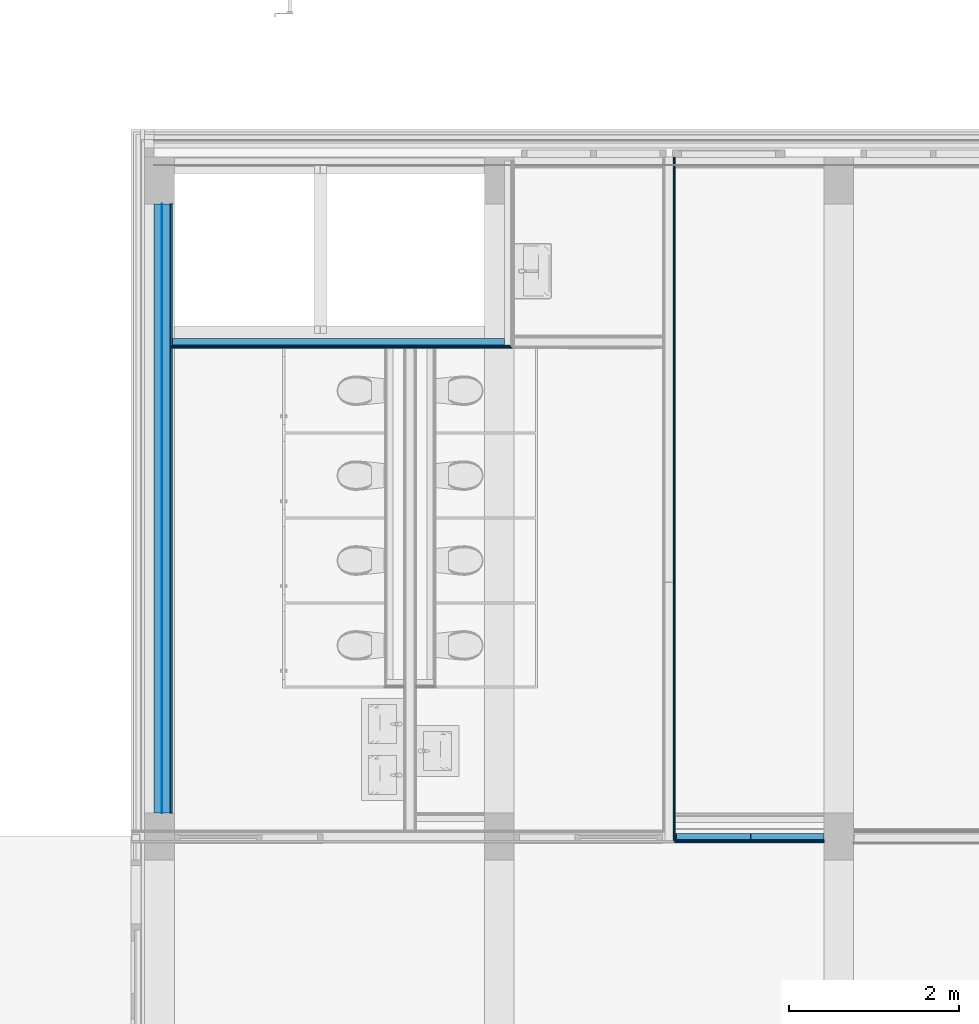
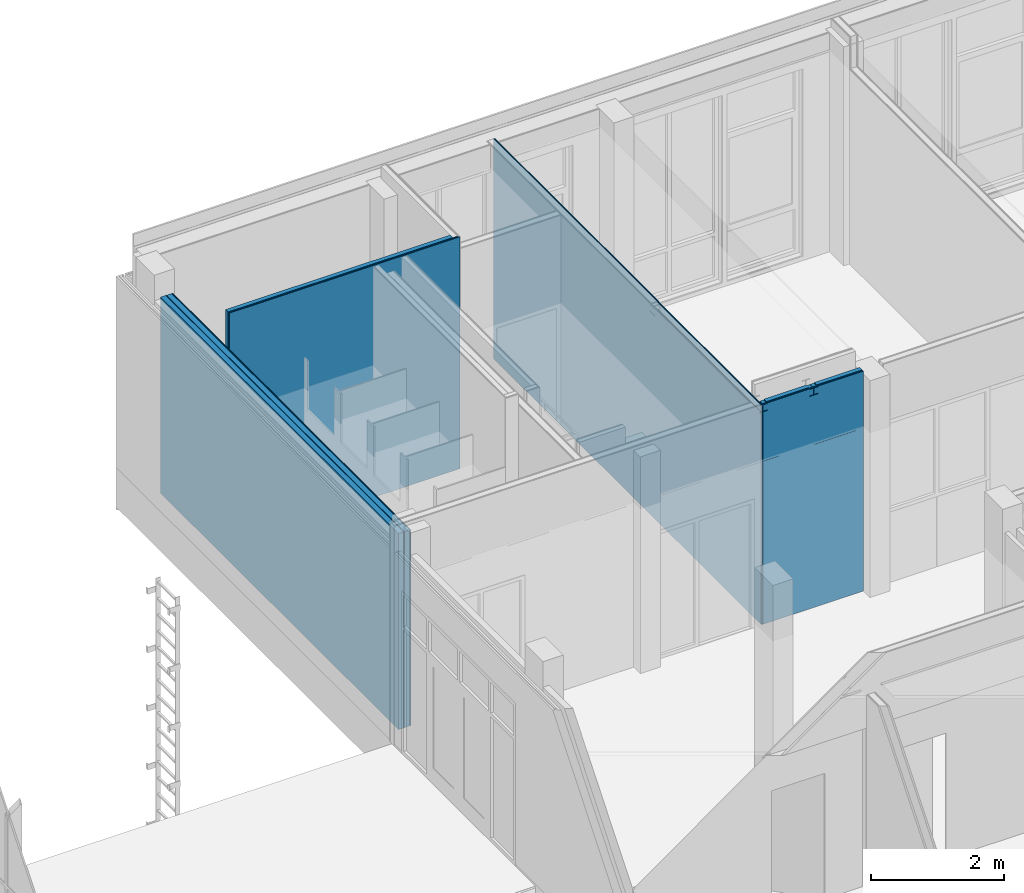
# One storey, part 23 of 54: 15 building element parts, 4 elements without a shape of their own.
"""IFC2X3 building model written with IfcOpenShell, lengths in millimetres."""

import ifcopenshell
import ifcopenshell.guid

model = None  # the IFC model being written
_history = None  # IfcOwnerHistory: only IFC2X3 demands one
_inside = {}  # id of a spatial element -> (the spatial element, [elements in it])
_under = {}  # id of a project, library or spatial element -> (it, [spatial elements below it])
_declared = {}  # id of a project -> (the project, [libraries it declares])
_typed = {}  # id of a type object -> (the type object, [elements of that type])
_made_of = {}  # id of a material, layer set ... -> (it, [elements and type objects made of it])


def new_model(schema):
    """Start an empty IFC model of exactly this schema.

    Asked for "IFC4X3", IfcOpenShell would pick the latest addendum, in which some entities
    have other attributes; the version numbers below select the first issue.
    IFC2X3 requires an IfcOwnerHistory on every rooted entity: one is made here for all.
    """
    global model, _history
    if schema == "IFC4X3":
        model = ifcopenshell.file(schema_version=(4, 3, 0, 0))
    else:
        model = ifcopenshell.file(schema=schema)
    _inside.clear()
    _under.clear()
    _declared.clear()
    _typed.clear()
    _made_of.clear()
    _history = None
    if model.schema == "IFC2X3":
        org = make("IfcOrganization", Name="unknown")
        user = make(
            "IfcPersonAndOrganization",
            ThePerson=make("IfcPerson", FamilyName="unknown"),
            TheOrganization=org,
        )
        app = make(
            "IfcApplication",
            ApplicationDeveloper=org,
            Version="unknown",
            ApplicationFullName="unknown",
            ApplicationIdentifier="unknown",
        )
        _history = make(
            "IfcOwnerHistory",
            OwningUser=user,
            OwningApplication=app,
            ChangeAction="ADDED",
            CreationDate=0,
        )
    return model


def make(cls, **values):
    """One entity of the class cls with the attributes given. An attribute that is None is left unset."""
    return model.create_entity(
        cls, **{name: value for name, value in values.items() if value is not None}
    )


def entity(cls, *values):
    """Any entity or typed value of the class cls, its attributes in the order of the schema. None: left unset."""
    e = model.create_entity(cls)
    for i, value in enumerate(values):
        if value is not None:
            e[i] = value
    return e


def rooted(cls, **values):
    """An entity with a GlobalId (a new one), such as an element, a storey or a relation."""
    return make(cls, GlobalId=ifcopenshell.guid.new(), OwnerHistory=_history, **values)


def si_unit(unit_type, name, prefix=None):
    """IfcSIUnit, for example si_unit("LENGTHUNIT", "METRE", prefix="MILLI")."""
    return make("IfcSIUnit", UnitType=unit_type, Prefix=prefix, Name=name)


def converted_unit(unit_type, name, factor, base, dimensions=None, offset=None):
    """IfcConversionBasedUnit, such as the inch: factor (a typed value) times the base unit."""
    return make(
        "IfcConversionBasedUnit"
        if offset is None
        else "IfcConversionBasedUnitWithOffset",
        ConversionOffset=offset,
        Dimensions=None
        if dimensions is None
        else entity("IfcDimensionalExponents", *dimensions),
        UnitType=unit_type,
        Name=name,
        ConversionFactor=make(
            "IfcMeasureWithUnit", ValueComponent=factor, UnitComponent=base
        ),
    )


def derived_unit(unit_type, elements):
    """IfcDerivedUnit: a product of units, each with its exponent."""
    return make(
        "IfcDerivedUnit",
        Elements=[
            make("IfcDerivedUnitElement", Unit=unit, Exponent=power)
            for unit, power in elements
        ],
        UnitType=unit_type,
    )


def money_unit(currency):
    """IfcMonetaryUnit."""
    return make("IfcMonetaryUnit", Currency=currency)


def assignment(units):
    """IfcUnitAssignment: the units of a project."""
    return None if units is None else make("IfcUnitAssignment", Units=units)


def point(xyz):
    """IfcCartesianPoint."""
    return None if xyz is None else make("IfcCartesianPoint", Coordinates=xyz)


def direction(xyz):
    """IfcDirection."""
    return None if xyz is None else make("IfcDirection", DirectionRatios=xyz)


def frame(location, z_axis=None, x_axis=None):
    """IfcAxis2Placement3D, a coordinate frame: its origin and axes. An axis left out is left unset."""
    return make(
        "IfcAxis2Placement3D",
        Location=point(location),
        Axis=direction(z_axis),
        RefDirection=direction(x_axis),
    )


def origin_with_axes():
    """The frame at (0, 0, 0) with the z axis (0, 0, 1) and the x axis (1, 0, 0) written out."""
    return frame((0.0, 0.0, 0.0), z_axis=(0.0, 0.0, 1.0), x_axis=(1.0, 0.0, 0.0))


def place(relative_to, where):
    """IfcLocalPlacement: puts the frame where relative to a parent placement (None: the world)."""
    return make(
        "IfcLocalPlacement", PlacementRelTo=relative_to, RelativePlacement=where
    )


def context(
    kind, dimensions, precision=None, world=None, true_north=None, identifier=None
):
    """IfcGeometricRepresentationContext, for example the 3D "Model" context."""
    return make(
        "IfcGeometricRepresentationContext",
        ContextIdentifier=identifier,
        ContextType=kind,
        CoordinateSpaceDimension=dimensions,
        Precision=precision,
        WorldCoordinateSystem=world,
        TrueNorth=true_north,
    )


def subcontext(parent, identifier, kind, view, scale=None):
    """IfcGeometricRepresentationSubContext, for example "Body" below "Model"."""
    return make(
        "IfcGeometricRepresentationSubContext",
        ContextIdentifier=identifier,
        ContextType=kind,
        ParentContext=parent,
        TargetScale=scale,
        TargetView=view,
    )


def project(units=None, contexts=None):
    """IfcProject with its units and contexts."""
    return rooted(
        "IfcProject",
        Name="project",
        RepresentationContexts=contexts,
        UnitsInContext=assignment(units),
    )


def spatial(cls, under=None, at=None, **own):
    """A site, building, storey or space (cls), placed at a placement, below another one or the project."""
    s = rooted(cls, ObjectPlacement=at, **own)
    if under is not None:
        _under.setdefault(under.id(), (under, []))[1].append(s)
    return s


def faces_of(points, faces, orient=None, outer=None):
    """IfcFace entities. A face is a list of loops; a loop is a list of indices into points, from 0.

    orient and outer hold one flag for each loop. By default every Orientation is true, the
    first loop of a face is its IfcFaceOuterBound and the others are IfcFaceBound.
    """
    made = []
    for i, loops in enumerate(faces):
        bounds = []
        for j, loop in enumerate(loops):
            is_outer = j == 0 if outer is None else outer[i][j]
            bounds.append(
                make(
                    "IfcFaceOuterBound" if is_outer else "IfcFaceBound",
                    Bound=make("IfcPolyLoop", Polygon=[points[k] for k in loop]),
                    Orientation=True if orient is None else orient[i][j],
                )
            )
        made.append(make("IfcFace", Bounds=bounds))
    return made


def faceted_brep(points, faces, orient=None, outer=None, voids=None):
    """IfcFacetedBrep: a solid bounded by flat faces; with voids (closed shells), ...WithVoids."""
    shared = [point(p) for p in points]
    hull = make("IfcClosedShell", CfsFaces=faces_of(shared, faces, orient, outer))
    if voids is None:
        return make("IfcFacetedBrep", Outer=hull)
    return make(
        "IfcFacetedBrepWithVoids",
        Outer=hull,
        Voids=[
            make(cls, CfsFaces=faces_of(shared, fs, o, b)) for cls, fs, o, b in voids
        ],
    )


def shape(context_of_items, identifier, shape_type, items):
    """IfcShapeRepresentation: the items that make up one representation, for example the "Body"."""
    return make(
        "IfcShapeRepresentation",
        ContextOfItems=context_of_items,
        RepresentationIdentifier=identifier,
        RepresentationType=shape_type,
        Items=items,
    )


def material(Name=None, Category=None):
    """IfcMaterial."""
    return make("IfcMaterial", Name=Name, Category=Category)


def made_of(thing, what):
    """Note that an element or type object is made of a material, layer set ...; save() writes the relation."""
    if what is not None:
        _made_of.setdefault(what.id(), (what, []))[1].append(thing)
    return thing


def type_object(cls, material=None, **own):
    """A type object (cls), such as IfcWallType, which elements share."""
    return made_of(rooted(cls, **own), material)


def element(
    cls,
    number,
    at=None,
    inside=None,
    cuts=None,
    type_object=None,
    material=None,
    context=None,
    identifier="Body",
    shape_type=None,
    held_by="IfcProductDefinitionShape",
    body=None,
    shapes=None,
    **own,
):
    """One element of the class cls, such as IfcWall. Its Tag is "e" and its number.

    at: its placement. inside: the storey or other place that contains it. cuts: it is an
    opening in that element (IfcRelVoidsElement). A single representation is given by context,
    identifier, shape_type and body (its items); several are given by shapes. held_by: the class
    of the entity that holds the representations. save() writes the other relations.
    """
    e = rooted(cls, Tag="e%d" % number, ObjectPlacement=at, **own)
    if body is not None:
        shapes = [shape(context, identifier, shape_type, body)]
    if shapes is not None:
        e.Representation = make(held_by, Representations=shapes)
    if inside is not None:
        _inside.setdefault(inside.id(), (inside, []))[1].append(e)
    if cuts is not None:
        rooted(
            "IfcRelVoidsElement", RelatingBuildingElement=cuts, RelatedOpeningElement=e
        )
    if type_object is not None:
        _typed.setdefault(type_object.id(), (type_object, []))[1].append(e)
    return made_of(e, material)


def aggregate(whole, parts):
    """IfcRelAggregates: a whole, such as a stair, and the parts it consists of."""
    return rooted("IfcRelAggregates", RelatingObject=whole, RelatedObjects=parts)


def save(model, path):
    """Write the relations noted so far, then the file.

    IfcRelAggregates (storeys below a building ...), IfcRelContainedInSpatialStructure (elements
    in a storey), IfcRelDefinesByType, IfcRelAssociatesMaterial and IfcRelDeclares: one each for
    every whole, place, type object, material and project.
    """
    for whole, parts in _under.values():
        aggregate(whole, parts)
    for where, things in _inside.values():
        rooted(
            "IfcRelContainedInSpatialStructure",
            RelatedElements=things,
            RelatingStructure=where,
        )
    for kind, things in _typed.values():
        rooted("IfcRelDefinesByType", RelatedObjects=things, RelatingType=kind)
    for what, things in _made_of.values():
        rooted("IfcRelAssociatesMaterial", RelatedObjects=things, RelatingMaterial=what)
    for by, libraries in _declared.values():
        rooted("IfcRelDeclares", RelatingContext=by, RelatedDefinitions=libraries)
    model.write(path)


model = new_model("IFC2X3")

# Units and contexts
model_context = context("Model", 3, precision=0.01, world=origin_with_axes(), true_north=direction((0.0, 1.0)))
body_context = subcontext(model_context, "Body", "Model", "MODEL_VIEW")
ifc_project = project(units=[si_unit("LENGTHUNIT", "METRE", prefix="MILLI"), si_unit("AREAUNIT", "SQUARE_METRE"), si_unit("VOLUMEUNIT", "CUBIC_METRE"), converted_unit("PLANEANGLEUNIT", "DEGREE", entity("IfcPlaneAngleMeasure", 0.0174532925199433), si_unit("PLANEANGLEUNIT", "RADIAN"), dimensions=[0, 0, 0, 0, 0, 0, 0]), money_unit("EUR"), converted_unit("TIMEUNIT", "Year", entity("IfcTimeMeasure", 31557600.0), si_unit("TIMEUNIT", "SECOND"), dimensions=[0, 0, 1, 0, 0, 0, 0]), si_unit("MASSUNIT", "GRAM", prefix="KILO"), si_unit("THERMODYNAMICTEMPERATUREUNIT", "DEGREE_CELSIUS"), si_unit("LUMINOUSINTENSITYUNIT", "LUMEN"), si_unit("ENERGYUNIT", "JOULE", prefix="MEGA"), derived_unit("THERMALCONDUCTANCEUNIT", [(si_unit("POWERUNIT", "WATT"), 1), (si_unit("LENGTHUNIT", "METRE"), -1), (si_unit("THERMODYNAMICTEMPERATUREUNIT", "KELVIN"), -1)]), derived_unit("SPECIFICHEATCAPACITYUNIT", [(si_unit("ENERGYUNIT", "JOULE"), 1), (si_unit("MASSUNIT", "GRAM", prefix="KILO"), -1), (si_unit("THERMODYNAMICTEMPERATUREUNIT", "KELVIN"), -1)]), derived_unit("MASSDENSITYUNIT", [(si_unit("MASSUNIT", "GRAM", prefix="KILO"), 1), (si_unit("VOLUMEUNIT", "CUBIC_METRE"), -1)])], contexts=[model_context])

# Site, building, storey
site_placement = place(None, origin_with_axes())
site = spatial("IfcSite", under=ifc_project, at=site_placement, Name="<site naam>", CompositionType="ELEMENT")
building_placement = place(site_placement, origin_with_axes())
building = spatial("IfcBuilding", under=site, at=building_placement, Name="<Naam gebouw>", CompositionType="ELEMENT")
storey_placement = place(building_placement, frame((0.0, 0.0, 8500.0), z_axis=(0.0, 0.0, 1.0), x_axis=(1.0, 0.0, 0.0)))
storey = spatial("IfcBuildingStorey", under=building, at=storey_placement, Name="02 2e verdieping", CompositionType="ELEMENT", Elevation=8500.0)

# Wall, building element parts
wall_type_1 = type_object("IfcWallType", Name="MS-01 GF 150 ECO DGS/2.100.2.A 150", PredefinedType="NOTDEFINED")
wall_1_placement = place(storey_placement, frame((18000.10069231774, 20000.00000000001, 0.0), z_axis=(0.0, 0.0, 1.0), x_axis=(0.0, -1.0, 0.0)))
wall_1 = element("IfcWall", 1, at=wall_1_placement, inside=storey, type_object=wall_type_1, Name="22_Binnenwand_MS-01")
ifc_material_1 = material(Name="gipsplaat")
building_element_part_1_placement = place(wall_1_placement, origin_with_axes())
building_element_part_1 = element("IfcBuildingElementPart", 2, at=building_element_part_1_placement, material=ifc_material_1, Name="gipsplaat", context=body_context, shape_type="Brep", body=[
    faceted_brep([(4934.999999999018, 62.5, 3909.999999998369), (8074.999999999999, 62.5, 3909.999999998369), (8074.999999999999, 74.99999999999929, 3909.999999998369), (4934.999999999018, 74.99999999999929, 3909.999999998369), (8074.999999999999, 62.5, 3039.999999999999), (4934.999999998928, 62.5, 3922.000000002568), (5001.499999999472, 62.5, 3922.000000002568), (5001.499999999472, 62.5, 4037.999999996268), (4934.999999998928, 62.5, 4037.999999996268), (4934.999999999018, 62.5, 4050.000000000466), (0.0, 62.5, 4050.000000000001), (0.0, 62.5, 0.0), (8074.999999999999, 62.5, 0.0), (8074.999999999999, 62.5, 3000.0), (8072.923608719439, 62.5, 3000.0), (8072.923608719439, 62.5, 3039.999999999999), (8074.999999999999, 74.99999999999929, 3039.999999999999), (8072.923608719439, 74.99999999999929, 3039.999999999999), (8072.923608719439, 74.99999999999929, 3000.0), (8074.999999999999, 74.99999999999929, 3000.0), (8074.999999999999, 74.99999999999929, 0.0), (0.0, 74.99999999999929, 0.0), (0.0, 74.99999999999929, 4050.000000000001), (4934.999999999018, 74.99999999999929, 4050.000000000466), (4934.999999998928, 74.99999999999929, 4037.999999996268), (5001.499999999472, 74.99999999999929, 4037.999999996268), (5001.499999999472, 74.99999999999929, 3922.000000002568), (4934.999999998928, 74.99999999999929, 3922.000000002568), (116.0000000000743, 75.00000000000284, 3740.0), (116.0000000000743, 75.00000000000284, 3700.000000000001), (7907.990713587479, 74.99999999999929, 3700.000000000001), (7907.990713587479, 74.99999999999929, 3740.0), (116.0000000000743, 74.95769838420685, 3740.0), (116.0000000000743, 74.95769838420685, 3700.000000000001), (7907.990713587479, 74.95769838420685, 3700.000000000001), (7907.990713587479, 74.95769838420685, 3740.0)], [[[0, 1, 2, 3]], [[4, 1, 0, 5, 6, 7, 8, 9, 10, 11, 12, 13, 14, 15]], [[16, 2, 1, 4]], [[3, 2, 16, 17, 18, 19, 20, 21, 22, 23, 24, 25, 26, 27], [28, 29, 30, 31]], [[0, 3, 27, 5]], [[5, 27, 26, 6]], [[6, 26, 25, 7]], [[7, 25, 24, 8]], [[8, 24, 23, 9]], [[10, 9, 23, 22]], [[22, 21, 11, 10]], [[11, 21, 20, 12]], [[12, 20, 19, 13]], [[14, 13, 19, 18]], [[15, 14, 18, 17]], [[4, 15, 17, 16]], [[32, 33, 29, 28]], [[33, 34, 30, 29]], [[34, 35, 31, 30]], [[35, 32, 28, 31]], [[35, 34, 33, 32]]]),
    faceted_brep([(5075.000000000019, 74.99999999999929, 4037.999999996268), (8074.999999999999, 74.99999999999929, 4037.999999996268), (8074.999999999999, 74.99999999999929, 3922.000000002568), (5075.000000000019, 74.99999999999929, 3922.000000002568), (5008.499999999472, 74.99999999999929, 3922.000000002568), (5008.499999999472, 74.99999999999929, 4037.999999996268), (5075.000000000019, 62.5, 4037.999999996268), (8074.999999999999, 62.5, 4037.999999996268), (8074.999999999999, 62.5, 3922.000000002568), (5075.000000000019, 62.5, 3922.000000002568), (5008.499999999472, 62.5, 3922.000000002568), (5008.499999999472, 62.5, 4037.999999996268)], [[[0, 1, 2, 3, 4, 5]], [[1, 0, 6, 7]], [[1, 7, 8, 2]], [[9, 3, 2, 8]], [[3, 9, 10, 4]], [[5, 4, 10, 11]], [[6, 0, 5, 11]], [[7, 6, 11, 10, 9, 8]]]),
])
building_element_part_2_placement = place(wall_1_placement, origin_with_axes())
building_element_part_2 = element("IfcBuildingElementPart", 3, at=building_element_part_2_placement, material=ifc_material_1, Name="gipsplaat", context=body_context, shape_type="Brep", body=[
    faceted_brep([(4934.999999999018, 62.5, 3909.999999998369), (4934.999999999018, 50.00000000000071, 3909.999999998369), (8062.5, 50.00000000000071, 3909.999999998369), (8062.5, 62.5, 3909.999999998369), (4934.999999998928, 62.5, 3922.000000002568), (4934.999999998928, 50.00000000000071, 3922.000000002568), (8062.5, 50.00000000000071, 0.0), (5001.499999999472, 50.00000000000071, 3922.000000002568), (5001.499999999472, 50.00000000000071, 4037.999999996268), (4934.999999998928, 50.00000000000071, 4037.999999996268), (4934.999999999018, 50.00000000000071, 4050.000000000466), (0.0, 50.00000000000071, 4050.000000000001), (0.0, 50.00000000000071, 0.0), (8062.5, 62.5, 0.0), (0.0, 62.5, 0.0), (0.0, 62.5, 4050.000000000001), (4934.999999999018, 62.5, 4050.000000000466), (4934.999999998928, 62.5, 4037.999999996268), (5001.499999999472, 62.5, 4037.999999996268), (5001.499999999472, 62.5, 3922.000000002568)], [[[0, 1, 2, 3]], [[1, 0, 4, 5]], [[6, 2, 1, 5, 7, 8, 9, 10, 11, 12]], [[13, 3, 2, 6]], [[0, 3, 13, 14, 15, 16, 17, 18, 19, 4]], [[5, 4, 19, 7]], [[7, 19, 18, 8]], [[8, 18, 17, 9]], [[9, 17, 16, 10]], [[11, 10, 16, 15]], [[14, 12, 11, 15]], [[14, 13, 6, 12]]]),
    faceted_brep([(8062.5, 62.5, 4037.999999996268), (8062.5, 62.5, 3922.000000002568), (5008.499999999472, 62.5, 3922.000000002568), (5008.499999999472, 62.5, 4037.999999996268), (8062.5, 50.00000000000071, 4037.999999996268), (8062.5, 50.00000000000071, 3922.000000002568), (5008.499999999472, 50.00000000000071, 3922.000000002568), (5008.499999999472, 50.00000000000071, 4037.999999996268)], [[[0, 1, 2, 3]], [[0, 4, 5, 1]], [[2, 1, 5, 6]], [[3, 2, 6, 7]], [[7, 4, 0, 3]], [[4, 7, 6, 5]]]),
])
aggregate(wall_1, [building_element_part_1, building_element_part_2])

wall_type_2 = type_object("IfcWallType", Name="therm. voorzetwand 215mm 215", PredefinedType="NOTDEFINED")
wall_2_placement = place(storey_placement, frame((11935.00000055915, 19449.99996516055, 0.0), z_axis=(0.0, 0.0, 1.0), x_axis=(0.0, -1.0, 0.0)))
wall_2 = element("IfcWall", 4, at=wall_2_placement, inside=storey, type_object=wall_type_2, Name="22_Binnenwand_therm.")
building_element_part_3_placement = place(wall_2_placement, origin_with_axes())
building_element_part_3 = element("IfcBuildingElementPart", 5, at=building_element_part_3_placement, material=ifc_material_1, Name="gipsplaat", context=body_context, shape_type="Brep", body=[
    faceted_brep([(-3.483943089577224e-05, 190.0000000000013, 3610.000000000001), (-3.483943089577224e-05, 202.5000000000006, 3610.000000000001), (0.0, 202.5000000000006, 0.0), (0.0, 190.0000000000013, 0.0), (7174.999965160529, 202.4999999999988, 3610.000000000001), (7174.999965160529, 190.0000000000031, 3610.000000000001), (7174.999896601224, 202.4999999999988, 0.0), (7174.999896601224, 190.0000000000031, 0.0)], [[[0, 1, 2, 3]], [[4, 1, 0, 5]], [[1, 4, 6, 2]], [[3, 2, 6, 7]], [[5, 0, 3, 7]], [[4, 5, 7, 6]]]),
])
ifc_material_2 = material(Name="metal_stud")
building_element_part_4_placement = place(wall_2_placement, origin_with_axes())
building_element_part_4 = element("IfcBuildingElementPart", 6, at=building_element_part_4_placement, material=ifc_material_2, Name="metal_stud", context=body_context, shape_type="Brep", body=[
    faceted_brep([(-3.483943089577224e-05, 89.99999999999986, 3610.000000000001), (-3.483943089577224e-05, 99.99999999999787, 3610.000000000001), (0.0, 99.99999999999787, 0.0), (0.0, 89.99999999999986, 0.0), (7174.999965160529, 99.99999999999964, 3610.000000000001), (7174.999965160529, 90.00000000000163, 3610.000000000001), (7174.999896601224, 99.99999999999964, 0.0), (7174.999896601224, 90.00000000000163, 0.0)], [[[0, 1, 2, 3]], [[4, 1, 0, 5]], [[1, 4, 6, 2]], [[3, 2, 6, 7]], [[5, 0, 3, 7]], [[4, 5, 7, 6]]]),
])
ifc_material_3 = material(Name="isolatie_steenwol")
building_element_part_5_placement = place(wall_2_placement, origin_with_axes())
building_element_part_5 = element("IfcBuildingElementPart", 7, at=building_element_part_5_placement, material=ifc_material_3, Name="isolatie_steenwol", context=body_context, shape_type="Brep", body=[
    faceted_brep([(-3.483943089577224e-05, 99.99999999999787, 3610.000000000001), (-3.483943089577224e-05, 190.0000000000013, 3610.000000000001), (0.0, 190.0000000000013, 0.0), (0.0, 99.99999999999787, 0.0), (7174.999965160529, 190.0000000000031, 3610.000000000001), (7174.999965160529, 99.99999999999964, 3610.000000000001), (7174.999896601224, 190.0000000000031, 0.0), (7174.999896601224, 99.99999999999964, 0.0)], [[[0, 1, 2, 3]], [[4, 1, 0, 5]], [[1, 4, 6, 2]], [[3, 2, 6, 7]], [[5, 0, 3, 7]], [[4, 5, 7, 6]]]),
])
building_element_part_6_placement = place(wall_2_placement, origin_with_axes())
building_element_part_6 = element("IfcBuildingElementPart", 8, at=building_element_part_6_placement, material=ifc_material_3, Name="isolatie_steenwol", context=body_context, shape_type="Brep", body=[
    faceted_brep([(-3.483943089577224e-05, 0.0, 3610.000000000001), (-3.483943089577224e-05, 89.99999999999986, 3610.000000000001), (0.0, 89.99999999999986, 0.0), (0.0, 0.0, 0.0), (7174.999965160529, 90.00000000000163, 3610.000000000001), (7174.999965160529, 0.0, 3610.000000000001), (7174.999896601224, 90.00000000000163, 0.0), (7174.999896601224, 0.0, 0.0)], [[[0, 1, 2, 3]], [[4, 1, 0, 5]], [[1, 4, 6, 2]], [[3, 2, 6, 7]], [[5, 0, 3, 7]], [[4, 5, 7, 6]]]),
])
building_element_part_7_placement = place(wall_2_placement, origin_with_axes())
building_element_part_7 = element("IfcBuildingElementPart", 9, at=building_element_part_7_placement, material=ifc_material_1, Name="gipsplaat", context=body_context, shape_type="Brep", body=[
    faceted_brep([(-3.483943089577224e-05, 202.5000000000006, 3610.000000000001), (-3.483943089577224e-05, 214.9999999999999, 3610.000000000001), (0.0, 214.9999999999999, 0.0), (0.0, 202.5000000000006, 0.0), (7174.999965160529, 215.0000000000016, 3610.000000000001), (7174.999965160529, 202.4999999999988, 3610.000000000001), (7174.999896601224, 215.0000000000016, 0.0), (7174.999896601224, 202.4999999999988, 0.0)], [[[0, 1, 2, 3]], [[4, 1, 0, 5]], [[1, 4, 6, 2]], [[3, 2, 6, 7]], [[5, 0, 3, 7]], [[4, 5, 7, 6]]]),
])
aggregate(wall_2, [building_element_part_3, building_element_part_4, building_element_part_5, building_element_part_6, building_element_part_7])

wall_type_3 = type_object("IfcWallType", Name="MS-04 GF 138 V/100.3.A 113", PredefinedType="NOTDEFINED")
wall_3_placement = place(storey_placement, frame((16175.00000000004, 17749.99999999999, 0.0), z_axis=(0.0, 0.0, 1.0), x_axis=(-1.0, 0.0, 0.0)))
wall_3 = element("IfcWall", 10, at=wall_3_placement, inside=storey, type_object=wall_type_3, Name="22_Binnenwand_MS-04")
building_element_part_8_placement = place(wall_3_placement, origin_with_axes())
building_element_part_8 = element("IfcBuildingElementPart", 11, at=building_element_part_8_placement, material=ifc_material_1, Name="gipsplaat", context=body_context, shape_type="Brep", body=[
    faceted_brep([(4024.999999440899, 0.0, 4270.0), (12.49999999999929, 0.0, 4270.0), (12.49999999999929, -12.49999999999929, 4270.0), (4024.999999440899, -12.49999999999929, 4270.0), (4024.999999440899, 0.0, 0.0), (12.49999999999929, 0.0, 0.0), (12.49999999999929, -12.49999999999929, 0.0), (4024.999999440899, -12.49999999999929, 0.0)], [[[0, 1, 2, 3]], [[4, 5, 1, 0]], [[2, 1, 5, 6]], [[3, 2, 6, 7]], [[3, 7, 4, 0]], [[7, 6, 5, 4]]]),
])
building_element_part_9_placement = place(wall_3_placement, origin_with_axes())
building_element_part_9 = element("IfcBuildingElementPart", 12, at=building_element_part_9_placement, material=ifc_material_1, Name="gipsplaat", context=body_context, shape_type="Brep", body=[
    faceted_brep([(4024.999999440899, -12.49999999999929, 4270.0), (24.99999999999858, -12.49999999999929, 4270.0), (24.99999999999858, -24.99999999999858, 4270.0), (4024.999999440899, -24.99999999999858, 4270.0), (4024.999999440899, -12.49999999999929, 0.0), (24.99999999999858, -12.49999999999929, 0.0), (24.99999999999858, -24.99999999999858, 0.0), (4024.999999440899, -24.99999999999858, 0.0)], [[[0, 1, 2, 3]], [[4, 5, 1, 0]], [[2, 1, 5, 6]], [[3, 2, 6, 7]], [[3, 7, 4, 0]], [[7, 6, 5, 4]]]),
])
building_element_part_10_placement = place(wall_3_placement, origin_with_axes())
building_element_part_10 = element("IfcBuildingElementPart", 13, at=building_element_part_10_placement, material=ifc_material_1, Name="gipsplaat", context=body_context, shape_type="Brep", body=[
    faceted_brep([(4024.999999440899, -24.99999999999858, 4270.0), (37.50000000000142, -24.99999999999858, 4270.0), (37.50000000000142, -37.50000000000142, 4270.0), (4024.999999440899, -37.50000000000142, 4270.0), (4024.999999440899, -24.99999999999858, 0.0), (37.50000000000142, -24.99999999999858, 0.0), (37.50000000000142, -37.50000000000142, 0.0), (4024.999999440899, -37.50000000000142, 0.0)], [[[0, 1, 2, 3]], [[4, 5, 1, 0]], [[2, 1, 5, 6]], [[3, 2, 6, 7]], [[3, 7, 4, 0]], [[7, 6, 5, 4]]]),
])
ifc_material_4 = material(Name="isolatie_steenwol LSW")
building_element_part_11_placement = place(wall_3_placement, origin_with_axes())
building_element_part_11 = element("IfcBuildingElementPart", 14, at=building_element_part_11_placement, material=ifc_material_4, Name="isolatie_steenwol LSW", context=body_context, shape_type="Brep", body=[
    faceted_brep([(4024.999999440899, -37.50000000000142, 4270.0), (112.5000000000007, -37.50000000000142, 4270.0), (112.5000000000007, -112.5000000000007, 4270.0), (4024.999999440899, -112.5000000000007, 4270.0), (4024.999999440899, -37.50000000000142, 0.0), (112.5000000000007, -37.50000000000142, 0.0), (112.5000000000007, -112.5000000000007, 0.0), (4024.999999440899, -112.5000000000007, 0.0)], [[[0, 1, 2, 3]], [[4, 5, 1, 0]], [[2, 1, 5, 6]], [[3, 2, 6, 7]], [[3, 7, 4, 0]], [[7, 6, 5, 4]]]),
])
aggregate(wall_3, [building_element_part_8, building_element_part_9, building_element_part_10, building_element_part_11])

wall_4_placement = place(storey_placement, frame((18075.10069231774, 11925.00000000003, 0.0), z_axis=(0.0, 0.0, 1.0), x_axis=(1.0, 0.0, 0.0)))
wall_4 = element("IfcWall", 15, at=wall_4_placement, inside=storey, type_object=wall_type_3, Name="22_Binnenwand_MS-04")
building_element_part_12_placement = place(wall_4_placement, origin_with_axes())
building_element_part_12 = element("IfcBuildingElementPart", 16, at=building_element_part_12_placement, material=ifc_material_1, Name="gipsplaat", context=body_context, shape_type="Brep", body=[
    faceted_brep([(6.399307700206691, 25.00000000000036, 3922.000000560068), (0.0, 25.00000000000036, 3922.000000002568), (0.0, 25.00000000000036, 4037.999999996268), (6.399307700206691, 25.00000000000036, 4037.999998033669), (6.399307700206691, 12.49999999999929, 3922.000000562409), (0.0, 12.50000000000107, 3922.000000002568), (0.0, 12.50000000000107, 4037.999999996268), (6.399307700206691, 12.49999999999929, 4037.999998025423)], [[[0, 1, 2, 3]], [[1, 0, 4, 5]], [[6, 2, 1, 5]], [[3, 2, 6, 7]], [[0, 3, 7, 4]], [[7, 6, 5, 4]]]),
    faceted_brep([(13.39930770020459, 25.00000000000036, 4037.999998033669), (79.89930770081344, 25.00000000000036, 4037.999999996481), (79.89930770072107, 25.00000000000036, 4050.000000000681), (814.8993076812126, 25.00000000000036, 4050.000000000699), (814.8993076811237, 25.00000000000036, 4037.999999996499), (881.399307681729, 25.00000000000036, 4037.999997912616), (881.399307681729, 25.00000000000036, 3922.000000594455), (814.8993076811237, 25.00000000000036, 3922.000000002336), (814.8993076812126, 25.00000000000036, 3909.999999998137), (954.8993076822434, 25.00000000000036, 3909.999999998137), (954.8993076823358, 25.00000000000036, 3922.000000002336), (888.3993076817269, 25.00000000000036, 3922.000000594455), (888.3993076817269, 25.00000000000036, 4037.999997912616), (954.8993076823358, 25.00000000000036, 4037.999999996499), (954.8993076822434, 25.00000000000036, 4050.000000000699), (1749.899307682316, 25.00000000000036, 4049.999999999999), (1749.899307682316, 25.00000000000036, 0.0), (0.0, 25.00000000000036, 0.0), (0.0, 25.00000000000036, 3909.999999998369), (79.89930770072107, 25.00000000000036, 3909.999999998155), (79.89930770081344, 25.00000000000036, 3922.000000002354), (13.39930770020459, 25.00000000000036, 3922.000000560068), (13.39930770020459, 12.49999999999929, 4037.999998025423), (79.89930770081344, 12.49999999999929, 4037.999999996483), (79.89930770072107, 12.50000000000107, 4050.000000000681), (814.8993076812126, 12.50000000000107, 4050.000000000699), (814.8993076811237, 12.49999999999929, 4037.999999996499), (881.399307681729, 12.49999999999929, 4037.999997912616), (881.399307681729, 12.49999999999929, 3922.000000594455), (814.8993076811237, 12.49999999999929, 3922.000000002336), (814.8993076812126, 12.49999999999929, 3909.999999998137), (954.8993076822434, 12.49999999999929, 3909.999999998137), (954.8993076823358, 12.49999999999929, 3922.000000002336), (888.3993076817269, 12.49999999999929, 3922.000000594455), (888.3993076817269, 12.49999999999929, 4037.999997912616), (954.8993076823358, 12.49999999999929, 4037.999999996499), (954.8993076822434, 12.50000000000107, 4050.000000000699), (1749.899307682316, 12.50000000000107, 4049.999999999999), (1749.899307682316, 12.49999999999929, 0.0), (0.0, 12.49999999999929, 0.0), (0.0, 12.50000000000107, 3909.999999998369), (79.89930770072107, 12.49999999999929, 3909.999999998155), (79.89930770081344, 12.49999999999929, 3922.000000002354), (13.39930770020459, 12.49999999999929, 3922.000000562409)], [[[0, 1, 2, 3, 4, 5, 6, 7, 8, 9, 10, 11, 12, 13, 14, 15, 16, 17, 18, 19, 20, 21]], [[1, 0, 22, 23]], [[24, 2, 1, 23]], [[2, 24, 25, 3]], [[4, 3, 25, 26]], [[5, 4, 26, 27]], [[6, 5, 27, 28]], [[7, 6, 28, 29]], [[8, 7, 29, 30]], [[9, 8, 30, 31]], [[10, 9, 31, 32]], [[11, 10, 32, 33]], [[12, 11, 33, 34]], [[13, 12, 34, 35]], [[36, 14, 13, 35]], [[14, 36, 37, 15]], [[38, 16, 15, 37]], [[17, 16, 38, 39]], [[40, 18, 17, 39]], [[19, 18, 40, 41]], [[20, 19, 41, 42]], [[21, 20, 42, 43]], [[0, 21, 43, 22]], [[41, 40, 39, 38, 37, 36, 35, 34, 33, 32, 31, 30, 29, 28, 27, 26, 25, 24, 23, 22, 43, 42]]]),
])
building_element_part_13_placement = place(wall_4_placement, origin_with_axes())
building_element_part_13 = element("IfcBuildingElementPart", 17, at=building_element_part_13_placement, material=ifc_material_1, Name="gipsplaat", context=body_context, shape_type="Brep", body=[
    faceted_brep([(6.399307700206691, 12.50000000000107, 3922.000000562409), (0.0, 12.50000000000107, 3922.000000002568), (0.0, 12.50000000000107, 4037.999999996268), (6.399307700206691, 12.50000000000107, 4037.999998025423), (6.399307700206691, 0.0, 3922.000000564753), (0.0, 0.0, 3922.000000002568), (0.0, 0.0, 4037.999999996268), (6.399307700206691, 0.0, 4037.999998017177)], [[[0, 1, 2, 3]], [[1, 0, 4, 5]], [[6, 2, 1, 5]], [[3, 2, 6, 7]], [[0, 3, 7, 4]], [[7, 6, 5, 4]]]),
    faceted_brep([(13.39930770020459, 12.50000000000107, 4037.999998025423), (79.89930770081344, 12.50000000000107, 4037.999999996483), (79.89930770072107, 12.50000000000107, 4050.000000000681), (814.8993076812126, 12.50000000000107, 4050.000000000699), (814.8993076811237, 12.50000000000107, 4037.999999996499), (881.399307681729, 12.50000000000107, 4037.999997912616), (881.399307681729, 12.50000000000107, 3922.000000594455), (814.8993076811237, 12.50000000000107, 3922.000000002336), (814.8993076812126, 12.50000000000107, 3909.999999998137), (954.8993076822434, 12.50000000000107, 3909.999999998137), (954.8993076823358, 12.50000000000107, 3922.000000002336), (888.3993076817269, 12.50000000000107, 3922.000000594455), (888.3993076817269, 12.50000000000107, 4037.999997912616), (954.8993076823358, 12.50000000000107, 4037.999999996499), (954.8993076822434, 12.50000000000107, 4050.000000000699), (1749.899307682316, 12.50000000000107, 4049.999999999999), (1749.899307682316, 12.49999999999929, 0.0), (0.0, 12.49999999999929, 0.0), (0.0, 12.50000000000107, 3909.999999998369), (79.89930770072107, 12.50000000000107, 3909.999999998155), (79.89930770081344, 12.50000000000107, 3922.000000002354), (13.39930770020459, 12.50000000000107, 3922.000000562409), (13.39930770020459, 0.0, 4037.999998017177), (79.89930770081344, 0.0, 4037.999999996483), (79.89930770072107, 0.0, 4050.000000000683), (814.8993076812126, 0.0, 4050.000000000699), (814.8993076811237, 0.0, 4037.999999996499), (881.399307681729, 0.0, 4037.999997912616), (881.399307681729, 0.0, 3922.000000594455), (814.8993076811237, 0.0, 3922.000000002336), (814.8993076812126, 0.0, 3909.999999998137), (954.8993076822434, 0.0, 3909.999999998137), (954.8993076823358, 0.0, 3922.000000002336), (888.3993076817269, 0.0, 3922.000000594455), (888.3993076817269, 0.0, 4037.999997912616), (954.8993076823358, 0.0, 4037.999999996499), (954.8993076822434, 0.0, 4050.000000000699), (1749.899307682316, 0.0, 4049.999999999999), (1749.899307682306, 2.076391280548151, 3039.999999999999), (1749.899307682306, 2.076391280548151, 3000.0), (1749.899307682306, 0.0, 3000.0), (1749.899307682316, 0.0, 0.0), (1749.899307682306, 0.0, 3039.999999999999), (0.0, 0.0, 0.0), (0.0, 0.0, 3909.999999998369), (0.0, 0.0, 3000.0), (0.0, 2.076391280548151, 3000.0), (0.0, 2.076391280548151, 3039.999999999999), (0.0, 0.0, 3039.999999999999), (79.89930770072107, 0.0, 3909.999999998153), (79.89930770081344, 0.0, 3922.000000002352), (13.39930770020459, 0.0, 3922.000000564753)], [[[0, 1, 2, 3, 4, 5, 6, 7, 8, 9, 10, 11, 12, 13, 14, 15, 16, 17, 18, 19, 20, 21]], [[1, 0, 22, 23]], [[24, 2, 1, 23]], [[2, 24, 25, 3]], [[4, 3, 25, 26]], [[5, 4, 26, 27]], [[6, 5, 27, 28]], [[7, 6, 28, 29]], [[8, 7, 29, 30]], [[9, 8, 30, 31]], [[10, 9, 31, 32]], [[11, 10, 32, 33]], [[12, 11, 33, 34]], [[13, 12, 34, 35]], [[36, 14, 13, 35]], [[14, 36, 37, 15]], [[38, 39, 40, 41, 16, 15, 37, 42]], [[43, 17, 16, 41]], [[44, 18, 17, 43, 45, 46, 47, 48]], [[19, 18, 44, 49]], [[20, 19, 49, 50]], [[21, 20, 50, 51]], [[0, 21, 51, 22]], [[49, 44, 48, 42, 37, 36, 35, 34, 33, 32, 31, 30, 29, 28, 27, 26, 25, 24, 23, 22, 51, 50]], [[46, 39, 38, 47]], [[45, 40, 39, 46]], [[41, 40, 45, 43]], [[47, 38, 42, 48]]]),
])
building_element_part_14_placement = place(wall_4_placement, origin_with_axes())
building_element_part_14 = element("IfcBuildingElementPart", 18, at=building_element_part_14_placement, material=ifc_material_4, Name="isolatie_steenwol LSW", context=body_context, shape_type="Brep", body=[
    faceted_brep([(6.399307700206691, 112.5000000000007, 3922.00000054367), (0.0, 112.5000000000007, 3922.000000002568), (0.0, 112.5000000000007, 4037.999999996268), (6.399307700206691, 112.5000000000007, 4037.999998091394), (6.399307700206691, 37.49999999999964, 3922.000000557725), (0.0, 37.49999999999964, 3922.000000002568), (0.0, 37.49999999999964, 4037.999999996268), (6.399307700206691, 37.49999999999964, 4037.999998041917)], [[[0, 1, 2, 3]], [[1, 0, 4, 5]], [[6, 2, 1, 5]], [[3, 2, 6, 7]], [[0, 3, 7, 4]], [[7, 6, 5, 4]]]),
    faceted_brep([(13.39930770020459, 112.5000000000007, 4037.999998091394), (79.89930770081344, 112.5000000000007, 4037.999999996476), (79.89930770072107, 112.5000000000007, 4050.000000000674), (814.8993076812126, 112.5000000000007, 4050.000000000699), (814.8993076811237, 112.5000000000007, 4037.999999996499), (881.399307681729, 112.5000000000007, 4037.999997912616), (881.399307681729, 112.5000000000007, 3922.000000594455), (814.8993076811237, 112.5000000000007, 3922.000000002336), (814.8993076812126, 112.5000000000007, 3909.999999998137), (954.8993076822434, 112.5000000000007, 3909.999999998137), (954.8993076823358, 112.5000000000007, 3922.000000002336), (888.3993076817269, 112.5000000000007, 3922.000000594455), (888.3993076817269, 112.5000000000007, 4037.999997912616), (954.8993076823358, 112.5000000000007, 4037.999999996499), (954.8993076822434, 112.5000000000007, 4050.000000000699), (1749.899307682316, 112.5000000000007, 4049.999999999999), (1749.899307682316, 112.5000000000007, 0.0), (0.0, 112.5000000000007, 0.0), (0.0, 112.5000000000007, 3909.999999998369), (79.89930770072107, 112.5000000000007, 3909.999999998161), (79.89930770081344, 112.5000000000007, 3922.000000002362), (13.39930770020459, 112.5000000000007, 3922.00000054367), (13.39930770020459, 37.49999999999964, 4037.999998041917), (79.89930770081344, 37.49999999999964, 4037.999999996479), (79.89930770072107, 37.49999999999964, 4050.000000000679), (814.8993076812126, 37.49999999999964, 4050.000000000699), (814.8993076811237, 37.49999999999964, 4037.999999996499), (881.399307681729, 37.49999999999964, 4037.999997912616), (881.399307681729, 37.49999999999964, 3922.000000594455), (814.8993076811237, 37.49999999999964, 3922.000000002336), (814.8993076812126, 37.49999999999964, 3909.999999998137), (954.8993076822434, 37.49999999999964, 3909.999999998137), (954.8993076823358, 37.49999999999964, 3922.000000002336), (888.3993076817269, 37.49999999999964, 3922.000000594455), (888.3993076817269, 37.49999999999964, 4037.999997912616), (954.8993076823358, 37.49999999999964, 4037.999999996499), (954.8993076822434, 37.49999999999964, 4050.000000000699), (1749.899307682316, 37.49999999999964, 4049.999999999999), (1749.899307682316, 37.49999999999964, 0.0), (0.0, 37.49999999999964, 0.0), (0.0, 37.49999999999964, 3909.999999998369), (79.89930770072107, 37.49999999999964, 3909.999999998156), (79.89930770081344, 37.49999999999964, 3922.000000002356), (13.39930770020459, 37.49999999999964, 3922.000000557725)], [[[0, 1, 2, 3, 4, 5, 6, 7, 8, 9, 10, 11, 12, 13, 14, 15, 16, 17, 18, 19, 20, 21]], [[1, 0, 22, 23]], [[24, 2, 1, 23]], [[2, 24, 25, 3]], [[4, 3, 25, 26]], [[5, 4, 26, 27]], [[6, 5, 27, 28]], [[7, 6, 28, 29]], [[8, 7, 29, 30]], [[9, 8, 30, 31]], [[10, 9, 31, 32]], [[11, 10, 32, 33]], [[12, 11, 33, 34]], [[13, 12, 34, 35]], [[36, 14, 13, 35]], [[14, 36, 37, 15]], [[38, 16, 15, 37]], [[17, 16, 38, 39]], [[40, 18, 17, 39]], [[19, 18, 40, 41]], [[20, 19, 41, 42]], [[21, 20, 42, 43]], [[0, 21, 43, 22]], [[41, 40, 39, 38, 37, 36, 35, 34, 33, 32, 31, 30, 29, 28, 27, 26, 25, 24, 23, 22, 43, 42]]]),
])
building_element_part_15_placement = place(wall_4_placement, origin_with_axes())
building_element_part_15 = element("IfcBuildingElementPart", 19, at=building_element_part_15_placement, material=ifc_material_1, Name="gipsplaat", context=body_context, shape_type="Brep", body=[
    faceted_brep([(6.399307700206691, 37.49999999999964, 3922.000000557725), (0.0, 37.49999999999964, 3922.000000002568), (0.0, 37.49999999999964, 4037.999999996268), (6.399307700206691, 37.49999999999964, 4037.999998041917), (6.399307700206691, 25.00000000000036, 3922.000000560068), (0.0, 25.00000000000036, 3922.000000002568), (0.0, 25.00000000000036, 4037.999999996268), (6.399307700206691, 25.00000000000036, 4037.999998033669)], [[[0, 1, 2, 3]], [[1, 0, 4, 5]], [[6, 2, 1, 5]], [[3, 2, 6, 7]], [[0, 3, 7, 4]], [[7, 6, 5, 4]]]),
    faceted_brep([(13.39930770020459, 37.49999999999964, 4037.999998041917), (79.89930770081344, 37.49999999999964, 4037.999999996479), (79.89930770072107, 37.49999999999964, 4050.000000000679), (814.8993076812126, 37.49999999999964, 4050.000000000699), (814.8993076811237, 37.49999999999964, 4037.999999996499), (881.399307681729, 37.49999999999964, 4037.999997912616), (881.399307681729, 37.49999999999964, 3922.000000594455), (814.8993076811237, 37.49999999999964, 3922.000000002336), (814.8993076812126, 37.49999999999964, 3909.999999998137), (954.8993076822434, 37.49999999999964, 3909.999999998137), (954.8993076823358, 37.49999999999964, 3922.000000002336), (888.3993076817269, 37.49999999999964, 3922.000000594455), (888.3993076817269, 37.49999999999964, 4037.999997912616), (954.8993076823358, 37.49999999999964, 4037.999999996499), (954.8993076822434, 37.49999999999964, 4050.000000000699), (1749.899307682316, 37.49999999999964, 4049.999999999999), (1749.899307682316, 37.49999999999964, 0.0), (0.0, 37.49999999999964, 0.0), (0.0, 37.49999999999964, 3909.999999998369), (79.89930770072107, 37.49999999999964, 3909.999999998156), (79.89930770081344, 37.49999999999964, 3922.000000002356), (13.39930770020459, 37.49999999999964, 3922.000000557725), (13.39930770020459, 25.00000000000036, 4037.999998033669), (79.89930770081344, 25.00000000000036, 4037.999999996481), (79.89930770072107, 25.00000000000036, 4050.000000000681), (814.8993076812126, 25.00000000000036, 4050.000000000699), (814.8993076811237, 25.00000000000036, 4037.999999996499), (881.399307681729, 25.00000000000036, 4037.999997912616), (881.399307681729, 25.00000000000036, 3922.000000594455), (814.8993076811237, 25.00000000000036, 3922.000000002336), (814.8993076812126, 25.00000000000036, 3909.999999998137), (954.8993076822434, 25.00000000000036, 3909.999999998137), (954.8993076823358, 25.00000000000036, 3922.000000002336), (888.3993076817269, 25.00000000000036, 3922.000000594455), (888.3993076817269, 25.00000000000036, 4037.999997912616), (954.8993076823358, 25.00000000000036, 4037.999999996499), (954.8993076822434, 25.00000000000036, 4050.000000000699), (1749.899307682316, 25.00000000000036, 4049.999999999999), (1749.899307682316, 25.00000000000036, 0.0), (0.0, 25.00000000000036, 0.0), (0.0, 25.00000000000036, 3909.999999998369), (79.89930770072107, 25.00000000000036, 3909.999999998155), (79.89930770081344, 25.00000000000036, 3922.000000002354), (13.39930770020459, 25.00000000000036, 3922.000000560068)], [[[0, 1, 2, 3, 4, 5, 6, 7, 8, 9, 10, 11, 12, 13, 14, 15, 16, 17, 18, 19, 20, 21]], [[1, 0, 22, 23]], [[24, 2, 1, 23]], [[2, 24, 25, 3]], [[4, 3, 25, 26]], [[5, 4, 26, 27]], [[6, 5, 27, 28]], [[7, 6, 28, 29]], [[8, 7, 29, 30]], [[9, 8, 30, 31]], [[10, 9, 31, 32]], [[11, 10, 32, 33]], [[12, 11, 33, 34]], [[13, 12, 34, 35]], [[36, 14, 13, 35]], [[14, 36, 37, 15]], [[38, 16, 15, 37]], [[17, 16, 38, 39]], [[40, 18, 17, 39]], [[19, 18, 40, 41]], [[20, 19, 41, 42]], [[21, 20, 42, 43]], [[0, 21, 43, 22]], [[41, 40, 39, 38, 37, 36, 35, 34, 33, 32, 31, 30, 29, 28, 27, 26, 25, 24, 23, 22, 43, 42]]]),
])
aggregate(wall_4, [building_element_part_12, building_element_part_13, building_element_part_14, building_element_part_15])

save(model, "model.ifc")
